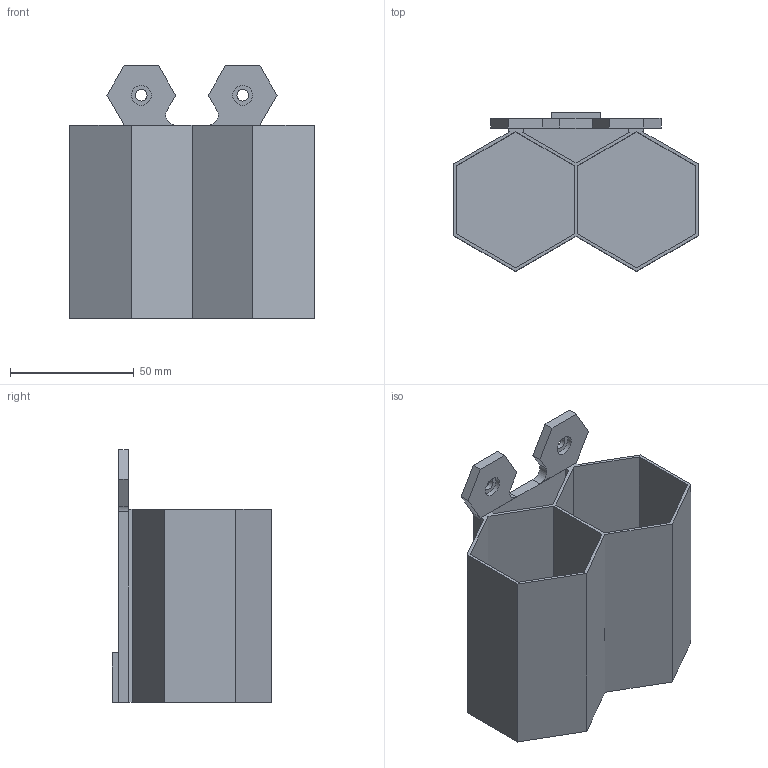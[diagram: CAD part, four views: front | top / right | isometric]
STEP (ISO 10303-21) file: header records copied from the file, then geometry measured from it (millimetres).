
FILE_DESCRIPTION(/* description */ (''),/* implementation_level */ '2;1');
FILE_NAME(/* name */ 'Storage box 2X50mm.step',/* time_stamp */ '2022-12-03T09:59:32Z',/* author */ (''),/* organization */ (''),/* preprocessor_version */ 'ST-DEVELOPER v19.2',/* originating_system */ 'Autodesk Translation Framework v11.17.0.187',/* authorisation */ '');
FILE_SCHEMA (('AUTOMOTIVE_DESIGN { 1 0 10303 214 3 1 1 }'));
Length unit declared in the file: millimetre
Products named in the file (1): Storage box 2X50mm
Bounding box: 98.8 x 64.23 x 102 mm (x, y, z)
Volume: 65074.6 mm3; surface area: 66859.1 mm2
Topology: 1 solids, 1 shells, 61 faces, 162 edges, 108 vertices
Faces by surface type: plane 53, cylinder 8
Full cylindrical faces by diameter (mm): 4.6 x2, 8 x2
Entity records: 1915 total; most frequent: CARTESIAN_POINT 332, ORIENTED_EDGE 324, DIRECTION 304, EDGE_CURVE 162, LINE 144, VECTOR 144, VERTEX_POINT 108, AXIS2_PLACEMENT_3D 80
